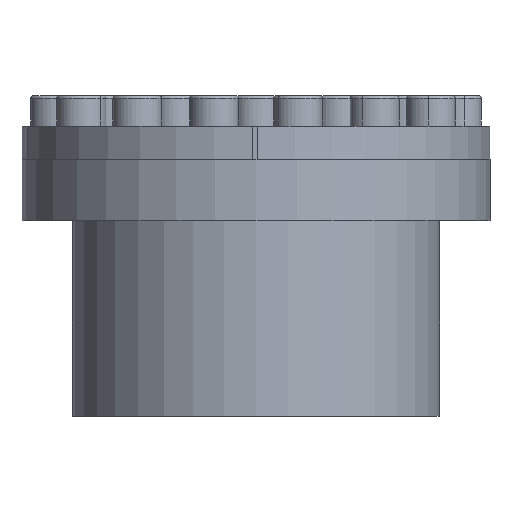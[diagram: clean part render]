
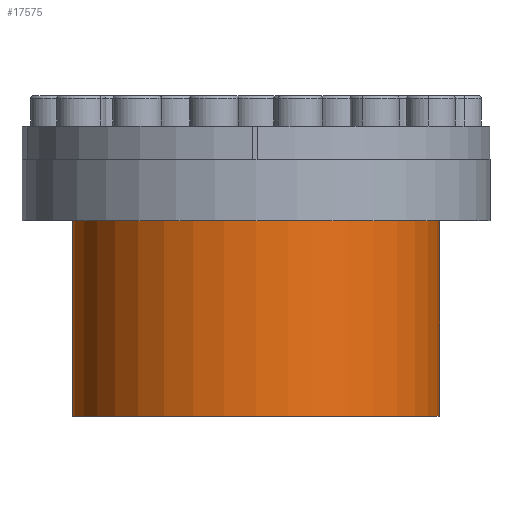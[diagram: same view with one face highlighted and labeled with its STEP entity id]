
A CAD part, front view. The second image highlights one B-rep face of the part: STEP entity #17575.
In plain terms, the highlighted cylindrical face has radius 60 mm (diameter 120 mm), a partial arc.
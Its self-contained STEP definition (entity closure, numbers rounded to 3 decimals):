
#545 = DIRECTION ( 'NONE',  ( 0., 0., -1. ) ) ;
#2526 = LINE ( 'NONE', #15070, #15753 ) ;
#2546 = CYLINDRICAL_SURFACE ( 'NONE', #9337, 60. ) ;
#3778 = VERTEX_POINT ( 'NONE', #6907 ) ;
#4071 = DIRECTION ( 'NONE',  ( -1., 0., 0. ) ) ;
#4179 = FACE_OUTER_BOUND ( 'NONE', #18602, .T. ) ;
#4565 = ORIENTED_EDGE ( 'NONE', *, *, #18513, .F. ) ;
#5283 = CARTESIAN_POINT ( 'NONE',  ( -60., 0., -78. ) ) ;
#6391 = CARTESIAN_POINT ( 'NONE',  ( 0., 0., -78. ) ) ;
#6444 = CIRCLE ( 'NONE', #16219, 60. ) ;
#6651 = CARTESIAN_POINT ( 'NONE',  ( -60., 0., -13.6 ) ) ;
#6907 = CARTESIAN_POINT ( 'NONE',  ( 60., 0., -13.6 ) ) ;
#7081 = ORIENTED_EDGE ( 'NONE', *, *, #20416, .T. ) ;
#7469 = DIRECTION ( 'NONE',  ( 0., 0., -1. ) ) ;
#8119 = DIRECTION ( 'NONE',  ( -1., 0., 0. ) ) ;
#8219 = DIRECTION ( 'NONE',  ( 0., 0., -1. ) ) ;
#8804 = DIRECTION ( 'NONE',  ( 0., 0., -1. ) ) ;
#9337 = AXIS2_PLACEMENT_3D ( 'NONE', #14397, #7469, #4071 ) ;
#9486 = CARTESIAN_POINT ( 'NONE',  ( 60., 0., -78. ) ) ;
#10544 = CARTESIAN_POINT ( 'NONE',  ( 60., 0., -13. ) ) ;
#10876 = CARTESIAN_POINT ( 'NONE',  ( 0., 0., -13.6 ) ) ;
#11428 = ORIENTED_EDGE ( 'NONE', *, *, #17889, .T. ) ;
#12607 = DIRECTION ( 'NONE',  ( -1., 0., 0. ) ) ;
#13112 = VECTOR ( 'NONE', #8804, 1000. ) ;
#13554 = EDGE_CURVE ( 'NONE', #21148, #15478, #6444, .T. ) ;
#13737 = CIRCLE ( 'NONE', #19212, 60. ) ;
#14397 = CARTESIAN_POINT ( 'NONE',  ( 0., 0., -13. ) ) ;
#15070 = CARTESIAN_POINT ( 'NONE',  ( -60., 0., -13. ) ) ;
#15478 = VERTEX_POINT ( 'NONE', #5283 ) ;
#15753 = VECTOR ( 'NONE', #8219, 1000. ) ;
#16219 = AXIS2_PLACEMENT_3D ( 'NONE', #6391, #18425, #8119 ) ;
#17575 = ADVANCED_FACE ( 'NONE', ( #4179 ), #2546, .T. ) ;
#17889 = EDGE_CURVE ( 'NONE', #22045, #15478, #2526, .T. ) ;
#18425 = DIRECTION ( 'NONE',  ( 0., 0., -1. ) ) ;
#18513 = EDGE_CURVE ( 'NONE', #3778, #21148, #22298, .T. ) ;
#18602 = EDGE_LOOP ( 'NONE', ( #4565, #7081, #11428, #18940 ) ) ;
#18940 = ORIENTED_EDGE ( 'NONE', *, *, #13554, .F. ) ;
#19212 = AXIS2_PLACEMENT_3D ( 'NONE', #10876, #545, #12607 ) ;
#20416 = EDGE_CURVE ( 'NONE', #3778, #22045, #13737, .T. ) ;
#21148 = VERTEX_POINT ( 'NONE', #9486 ) ;
#22045 = VERTEX_POINT ( 'NONE', #6651 ) ;
#22298 = LINE ( 'NONE', #10544, #13112 ) ;
